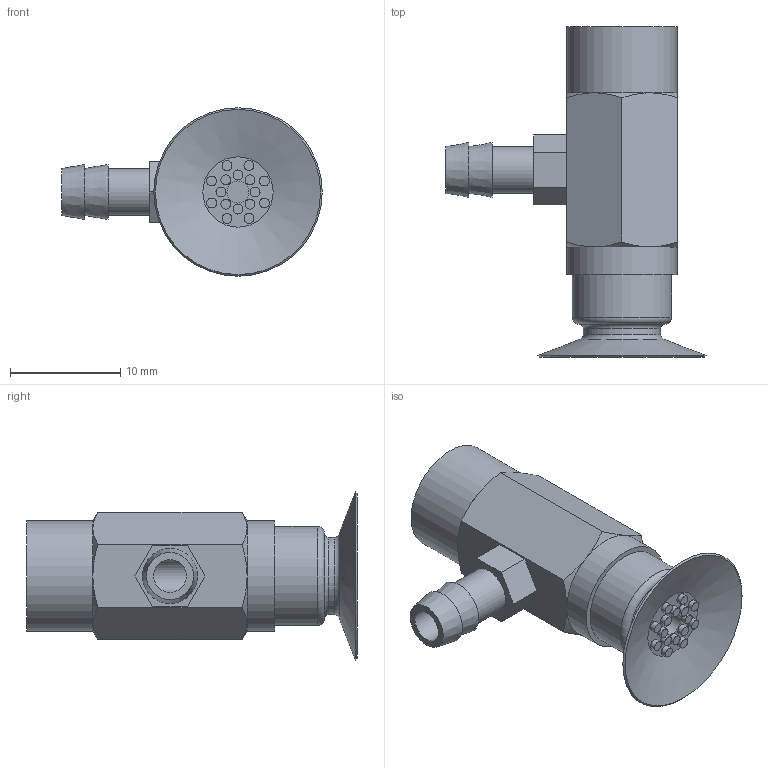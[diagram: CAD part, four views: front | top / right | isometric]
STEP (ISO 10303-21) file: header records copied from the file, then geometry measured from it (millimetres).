
FILE_DESCRIPTION(('STEP AP203'),'1');
FILE_NAME('.stp','2024-08-09T02:14:43',(' '),(' '),'Spatial InterOp 3D',' ',' ');
FILE_SCHEMA(('CONFIG_CONTROL_DESIGN'));
Length unit declared in the file: millimetre
Products named in the file (3): BBPAYK-15A-※; BPAYK-15A; BPAG-15A-※
Assembly tree (2 placements, depth 2):
  BBPAYK-15A-※
    BPAYK-15A
    BPAG-15A-※
Bounding box: 23.65 x 30 x 15.3 mm (x, y, z)
Volume: 2170.8 mm3; surface area: 2263.2 mm2
Topology: 2 solids, 2 shells, 104 faces, 199 edges, 124 vertices
Faces by surface type: plane 44, cylinder 31, cone 20, torus 9
Full cylindrical faces by diameter (mm): 0.9 x16, 2 x1, 3 x2, 3.242 x1, 4 x2, 4.26 x1, 5 x1, 6 x2, 7 x1, 9 x1, 10 x2
Entity records: 2662 total; most frequent: CARTESIAN_POINT 633, DIRECTION 414, ORIENTED_EDGE 282, AXIS2_PLACEMENT_3D 194, EDGE_LOOP 179, FACE_OUTER_BOUND 142, EDGE_CURVE 141, VERTEX_POINT 115
